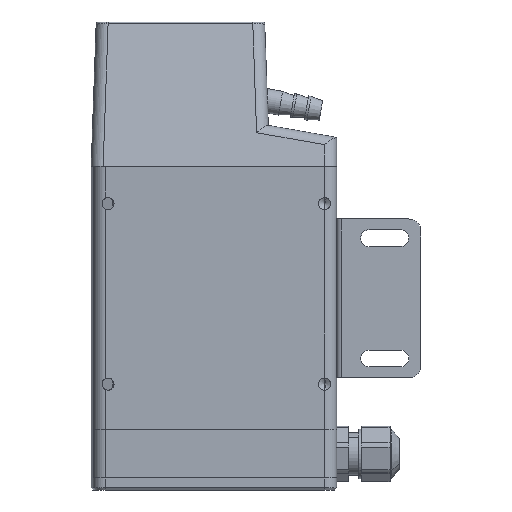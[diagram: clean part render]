
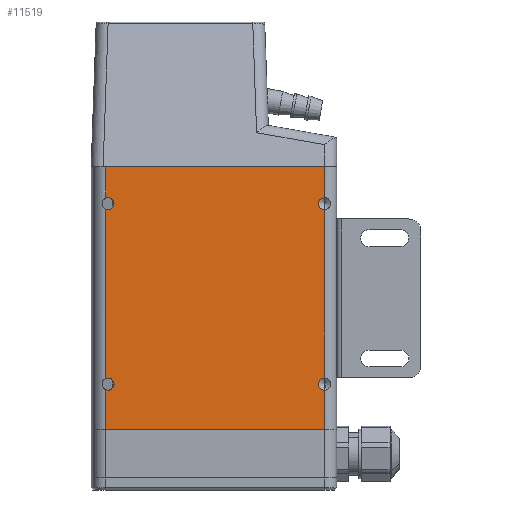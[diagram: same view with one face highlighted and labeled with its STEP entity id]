
A CAD part, left-side view. The second image highlights one B-rep face of the part: STEP entity #11519.
In plain terms, the highlighted planar face has unit normal (-1, 0, 0) as drawn and (1, 0, 0) by its records, which use the part's own axes.
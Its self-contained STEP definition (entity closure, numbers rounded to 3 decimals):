
#15 = PLANE ( 'NONE',  #23393 ) ;
#19 = FACE_OUTER_BOUND ( 'NONE', #25816, .T. ) ;
#29 = CARTESIAN_POINT ( 'NONE',  ( 30., 50.5, 109.5 ) ) ;
#30 = DIRECTION ( 'NONE',  ( -1., 0., 0. ) ) ;
#31 = DIRECTION ( 'NONE',  ( 0., -1., 0. ) ) ;
#6797 = CARTESIAN_POINT ( 'NONE',  ( 30., 45.5, 13.209 ) ) ;
#6798 = CARTESIAN_POINT ( 'NONE',  ( 30., 44.5, 88. ) ) ;
#6799 = CARTESIAN_POINT ( 'NONE',  ( 30., 44.5, 93. ) ) ;
#6886 = CARTESIAN_POINT ( 'NONE',  ( 30., -45.5, 109.5 ) ) ;
#6887 = CARTESIAN_POINT ( 'NONE',  ( 30., 45.5, 92.791 ) ) ;
#6890 = CARTESIAN_POINT ( 'NONE',  ( 30., 45.5, 17.791 ) ) ;
#6891 = CARTESIAN_POINT ( 'NONE',  ( 30., 45.5, 88.209 ) ) ;
#6894 = CARTESIAN_POINT ( 'NONE',  ( 30., 44.5, 13. ) ) ;
#6895 = CARTESIAN_POINT ( 'NONE',  ( 30., 44.5, 18. ) ) ;
#6910 = CARTESIAN_POINT ( 'NONE',  ( 30., 45.5, 0. ) ) ;
#6911 = CARTESIAN_POINT ( 'NONE',  ( 30., -45.5, 0. ) ) ;
#6916 = CARTESIAN_POINT ( 'NONE',  ( 30., 45.5, 109.5 ) ) ;
#7053 = CARTESIAN_POINT ( 'NONE',  ( 30., -45.5, 109.5 ) ) ;
#7058 = LINE ( 'NONE', #7059, #37699 ) ;
#7059 = CARTESIAN_POINT ( 'NONE',  ( 30., 50.5, 0. ) ) ;
#7060 = DIRECTION ( 'NONE',  ( 0., 1., 0. ) ) ;
#7061 = CARTESIAN_POINT ( 'NONE',  ( 30., 45.5, 109.5 ) ) ;
#7065 = LINE ( 'NONE', #7061, #37687 ) ;
#7066 = CARTESIAN_POINT ( 'NONE',  ( 30., -45.5, 15.5 ) ) ;
#7067 = DIRECTION ( 'NONE',  ( 1., 0., 0. ) ) ;
#7068 = DIRECTION ( 'NONE',  ( 0., 0., -1. ) ) ;
#7069 = DIRECTION ( 'NONE',  ( 0., 0., 1. ) ) ;
#7070 = LINE ( 'NONE', #7093, #37705 ) ;
#7072 = LINE ( 'NONE', #7053, #37690 ) ;
#7073 = CARTESIAN_POINT ( 'NONE',  ( 30., -45.5, 90.5 ) ) ;
#7074 = DIRECTION ( 'NONE',  ( 1., 0., 0. ) ) ;
#7075 = DIRECTION ( 'NONE',  ( 0., 0., -1. ) ) ;
#7076 = DIRECTION ( 'NONE',  ( 0., 0., -1. ) ) ;
#7077 = LINE ( 'NONE', #7078, #37693 ) ;
#7078 = CARTESIAN_POINT ( 'NONE',  ( 30., 50.5, 109.5 ) ) ;
#7079 = DIRECTION ( 'NONE',  ( 0., 1., 0. ) ) ;
#7080 = LINE ( 'NONE', #7081, #37706 ) ;
#7081 = CARTESIAN_POINT ( 'NONE',  ( 30., -45.5, 109.5 ) ) ;
#7082 = DIRECTION ( 'NONE',  ( 0., 0., -1. ) ) ;
#7083 = LINE ( 'NONE', #7084, #37696 ) ;
#7084 = CARTESIAN_POINT ( 'NONE',  ( 30., 45.5, 109.5 ) ) ;
#7085 = DIRECTION ( 'NONE',  ( 0., 0., 1. ) ) ;
#7086 = LINE ( 'NONE', #7087, #37695 ) ;
#7087 = CARTESIAN_POINT ( 'NONE',  ( 30., -45.5, 109.5 ) ) ;
#7088 = DIRECTION ( 'NONE',  ( 0., 0., -1. ) ) ;
#7093 = CARTESIAN_POINT ( 'NONE',  ( 30., 45.5, 109.5 ) ) ;
#7094 = DIRECTION ( 'NONE',  ( 0., 0., 1. ) ) ;
#7157 = CARTESIAN_POINT ( 'NONE',  ( 30., 44.5, 90.5 ) ) ;
#7158 = DIRECTION ( 'NONE',  ( 1., 0., 0. ) ) ;
#7159 = DIRECTION ( 'NONE',  ( 0., 0., -1. ) ) ;
#7183 = CARTESIAN_POINT ( 'NONE',  ( 30., 44.5, 90.5 ) ) ;
#7184 = DIRECTION ( 'NONE',  ( 1., 0., 0. ) ) ;
#7185 = DIRECTION ( 'NONE',  ( 0., 0., -1. ) ) ;
#7190 = CARTESIAN_POINT ( 'NONE',  ( 30., 44.5, 15.5 ) ) ;
#7191 = DIRECTION ( 'NONE',  ( 1., 0., 0. ) ) ;
#7192 = DIRECTION ( 'NONE',  ( 0., 0., -1. ) ) ;
#7197 = CARTESIAN_POINT ( 'NONE',  ( 30., 44.5, 15.5 ) ) ;
#7198 = DIRECTION ( 'NONE',  ( 1., 0., 0. ) ) ;
#7199 = DIRECTION ( 'NONE',  ( 0., 0., -1. ) ) ;
#7201 = CARTESIAN_POINT ( 'NONE',  ( 30., 44.5, 15.5 ) ) ;
#7202 = DIRECTION ( 'NONE',  ( 1., 0., 0. ) ) ;
#7203 = DIRECTION ( 'NONE',  ( 0., 0., -1. ) ) ;
#7222 = CARTESIAN_POINT ( 'NONE',  ( 30., 44.5, 90.5 ) ) ;
#7223 = DIRECTION ( 'NONE',  ( 1., 0., 0. ) ) ;
#7224 = DIRECTION ( 'NONE',  ( 0., 0., -1. ) ) ;
#8857 = VERTEX_POINT ( 'NONE', #36415 ) ;
#9080 = VERTEX_POINT ( 'NONE', #36561 ) ;
#9081 = VERTEX_POINT ( 'NONE', #36569 ) ;
#9086 = VERTEX_POINT ( 'NONE', #36574 ) ;
#11519 = ADVANCED_FACE ( 'NONE', ( #19 ), #15, .F. ) ;
#22675 = ORIENTED_EDGE ( 'NONE', *, *, #31692, .T. ) ;
#22676 = ORIENTED_EDGE ( 'NONE', *, *, #31706, .F. ) ;
#22677 = ORIENTED_EDGE ( 'NONE', *, *, #31719, .F. ) ;
#22715 = ORIENTED_EDGE ( 'NONE', *, *, #31710, .F. ) ;
#22716 = ORIENTED_EDGE ( 'NONE', *, *, #31713, .F. ) ;
#22717 = ORIENTED_EDGE ( 'NONE', *, *, #31712, .F. ) ;
#22718 = ORIENTED_EDGE ( 'NONE', *, *, #31684, .T. ) ;
#22719 = ORIENTED_EDGE ( 'NONE', *, *, #31681, .T. ) ;
#22720 = ORIENTED_EDGE ( 'NONE', *, *, #31686, .T. ) ;
#22721 = ORIENTED_EDGE ( 'NONE', *, *, #31683, .F. ) ;
#22722 = ORIENTED_EDGE ( 'NONE', *, *, #31688, .T. ) ;
#22723 = ORIENTED_EDGE ( 'NONE', *, *, #31685, .F. ) ;
#22724 = ORIENTED_EDGE ( 'NONE', *, *, #31690, .T. ) ;
#22725 = ORIENTED_EDGE ( 'NONE', *, *, #31708, .F. ) ;
#22726 = ORIENTED_EDGE ( 'NONE', *, *, #31687, .F. ) ;
#22728 = ORIENTED_EDGE ( 'NONE', *, *, #31689, .T. ) ;
#23393 = AXIS2_PLACEMENT_3D ( 'NONE', #29, #30, #31 ) ;
#23668 = VERTEX_POINT ( 'NONE', #6797 ) ;
#23669 = VERTEX_POINT ( 'NONE', #6798 ) ;
#23670 = VERTEX_POINT ( 'NONE', #6799 ) ;
#23761 = VERTEX_POINT ( 'NONE', #6886 ) ;
#23762 = VERTEX_POINT ( 'NONE', #6887 ) ;
#23765 = VERTEX_POINT ( 'NONE', #6890 ) ;
#23766 = VERTEX_POINT ( 'NONE', #6891 ) ;
#23769 = VERTEX_POINT ( 'NONE', #6894 ) ;
#23770 = VERTEX_POINT ( 'NONE', #6895 ) ;
#23803 = VERTEX_POINT ( 'NONE', #6910 ) ;
#23804 = VERTEX_POINT ( 'NONE', #6911 ) ;
#23809 = VERTEX_POINT ( 'NONE', #6916 ) ;
#25816 = EDGE_LOOP ( 'NONE', ( #22728, #22725, #22677, #22676, #22675, #22726, #22724, #22723, #22722, #22721, #22720, #22719, #22718, #22717, #22716, #22715 ) ) ;
#31681 = EDGE_CURVE ( 'NONE', #23804, #23803, #7058, .T. ) ;
#31683 = EDGE_CURVE ( 'NONE', #9080, #9086, #37688, .T. ) ;
#31684 = EDGE_CURVE ( 'NONE', #23803, #23668, #7065, .T. ) ;
#31685 = EDGE_CURVE ( 'NONE', #8857, #9081, #37694, .T. ) ;
#31686 = EDGE_CURVE ( 'NONE', #9080, #23804, #7072, .T. ) ;
#31687 = EDGE_CURVE ( 'NONE', #23761, #23809, #7077, .T. ) ;
#31688 = EDGE_CURVE ( 'NONE', #8857, #9086, #7080, .T. ) ;
#31689 = EDGE_CURVE ( 'NONE', #23765, #23766, #7083, .T. ) ;
#31690 = EDGE_CURVE ( 'NONE', #23761, #9081, #7086, .T. ) ;
#31692 = EDGE_CURVE ( 'NONE', #23762, #23809, #7070, .T. ) ;
#31706 = EDGE_CURVE ( 'NONE', #23762, #23670, #34313, .T. ) ;
#31708 = EDGE_CURVE ( 'NONE', #23669, #23766, #34311, .T. ) ;
#31710 = EDGE_CURVE ( 'NONE', #23765, #23770, #34316, .T. ) ;
#31712 = EDGE_CURVE ( 'NONE', #23769, #23668, #34318, .T. ) ;
#31713 = EDGE_CURVE ( 'NONE', #23770, #23769, #34319, .T. ) ;
#31719 = EDGE_CURVE ( 'NONE', #23670, #23669, #34324, .T. ) ;
#34311 = CIRCLE ( 'NONE', #34315, 2.5 ) ;
#34313 = CIRCLE ( 'NONE', #34314, 2.5 ) ;
#34314 = AXIS2_PLACEMENT_3D ( 'NONE', #7157, #7158, #7159 ) ;
#34315 = AXIS2_PLACEMENT_3D ( 'NONE', #7183, #7184, #7185 ) ;
#34316 = CIRCLE ( 'NONE', #34317, 2.5 ) ;
#34317 = AXIS2_PLACEMENT_3D ( 'NONE', #7190, #7191, #7192 ) ;
#34318 = CIRCLE ( 'NONE', #34320, 2.5 ) ;
#34319 = CIRCLE ( 'NONE', #34321, 2.5 ) ;
#34320 = AXIS2_PLACEMENT_3D ( 'NONE', #7197, #7198, #7199 ) ;
#34321 = AXIS2_PLACEMENT_3D ( 'NONE', #7201, #7202, #7203 ) ;
#34324 = CIRCLE ( 'NONE', #34325, 2.5 ) ;
#34325 = AXIS2_PLACEMENT_3D ( 'NONE', #7222, #7223, #7224 ) ;
#36415 = CARTESIAN_POINT ( 'NONE',  ( 30., -45.5, 88. ) ) ;
#36561 = CARTESIAN_POINT ( 'NONE',  ( 30., -45.5, 13. ) ) ;
#36569 = CARTESIAN_POINT ( 'NONE',  ( 30., -45.5, 93. ) ) ;
#36574 = CARTESIAN_POINT ( 'NONE',  ( 30., -45.5, 18. ) ) ;
#37687 = VECTOR ( 'NONE', #7069, 1000. ) ;
#37688 = CIRCLE ( 'NONE', #37689, 2.5 ) ;
#37689 = AXIS2_PLACEMENT_3D ( 'NONE', #7066, #7067, #7068 ) ;
#37690 = VECTOR ( 'NONE', #7076, 1000. ) ;
#37692 = AXIS2_PLACEMENT_3D ( 'NONE', #7073, #7074, #7075 ) ;
#37693 = VECTOR ( 'NONE', #7079, 1000. ) ;
#37694 = CIRCLE ( 'NONE', #37692, 2.5 ) ;
#37695 = VECTOR ( 'NONE', #7088, 1000. ) ;
#37696 = VECTOR ( 'NONE', #7085, 1000. ) ;
#37699 = VECTOR ( 'NONE', #7060, 1000. ) ;
#37705 = VECTOR ( 'NONE', #7094, 1000. ) ;
#37706 = VECTOR ( 'NONE', #7082, 1000. ) ;
